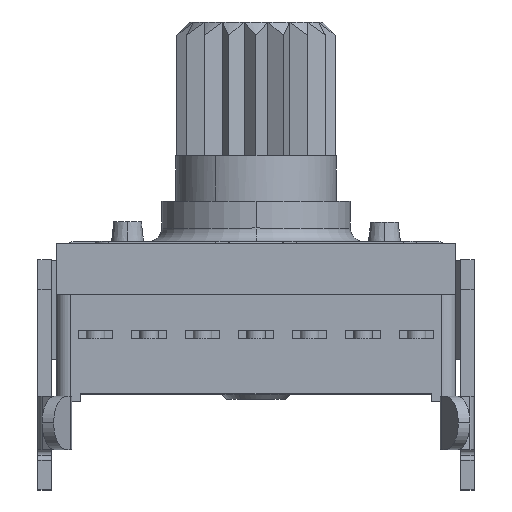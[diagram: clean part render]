
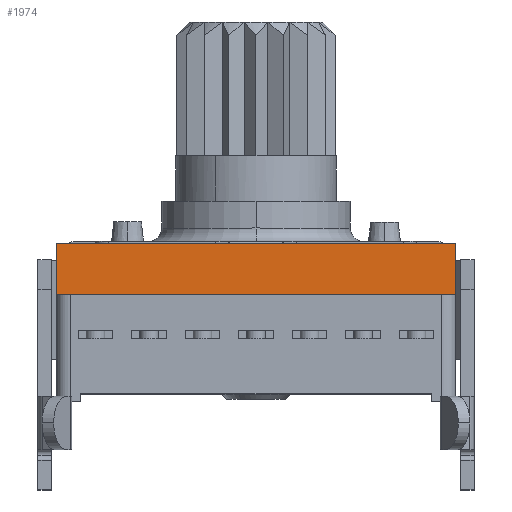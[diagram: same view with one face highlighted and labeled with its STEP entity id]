
A CAD part, top view. The second image highlights one B-rep face of the part: STEP entity #1974.
In plain terms, the highlighted planar face has unit normal (0, 0, 1).
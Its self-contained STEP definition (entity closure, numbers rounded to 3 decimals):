
#484 = VECTOR ( 'NONE', #14357, 1000. ) ;
#968 = CARTESIAN_POINT ( 'NONE',  ( -7.45, 3.7, -1. ) ) ;
#1511 = CARTESIAN_POINT ( 'NONE',  ( 0., 3.7, -1. ) ) ;
#1672 = CARTESIAN_POINT ( 'NONE',  ( 0., 3.7, -1. ) ) ;
#1974 = ADVANCED_FACE ( 'NONE', ( #10829 ), #16236, .T. ) ;
#2010 = LINE ( 'NONE', #3387, #13949 ) ;
#2968 = ORIENTED_EDGE ( 'NONE', *, *, #9677, .F. ) ;
#2997 = VECTOR ( 'NONE', #4338, 1000. ) ;
#3016 = EDGE_LOOP ( 'NONE', ( #4217, #3815, #2968, #10319 ) ) ;
#3084 = CARTESIAN_POINT ( 'NONE',  ( 7.45, 5.6, -1. ) ) ;
#3344 = LINE ( 'NONE', #8977, #484 ) ;
#3387 = CARTESIAN_POINT ( 'NONE',  ( -7.45, 3.7, -1. ) ) ;
#3536 = VERTEX_POINT ( 'NONE', #14180 ) ;
#3815 = ORIENTED_EDGE ( 'NONE', *, *, #10234, .F. ) ;
#4217 = ORIENTED_EDGE ( 'NONE', *, *, #9743, .T. ) ;
#4338 = DIRECTION ( 'NONE',  ( 0., 1., 0. ) ) ;
#4367 = DIRECTION ( 'NONE',  ( 1., 0., 0. ) ) ;
#4695 = DIRECTION ( 'NONE',  ( 0., 1., 0. ) ) ;
#6669 = EDGE_CURVE ( 'NONE', #12030, #3536, #13810, .T. ) ;
#7072 = VECTOR ( 'NONE', #4367, 1000. ) ;
#8437 = AXIS2_PLACEMENT_3D ( 'NONE', #1511, #9597, #12256 ) ;
#8573 = VERTEX_POINT ( 'NONE', #3084 ) ;
#8977 = CARTESIAN_POINT ( 'NONE',  ( 7.45, 5.6, -1. ) ) ;
#9597 = DIRECTION ( 'NONE',  ( 0., 0., 1. ) ) ;
#9677 = EDGE_CURVE ( 'NONE', #12030, #10327, #2010, .T. ) ;
#9743 = EDGE_CURVE ( 'NONE', #3536, #8573, #10959, .T. ) ;
#10234 = EDGE_CURVE ( 'NONE', #10327, #8573, #3344, .T. ) ;
#10319 = ORIENTED_EDGE ( 'NONE', *, *, #6669, .T. ) ;
#10327 = VERTEX_POINT ( 'NONE', #13123 ) ;
#10829 = FACE_OUTER_BOUND ( 'NONE', #3016, .T. ) ;
#10959 = LINE ( 'NONE', #16461, #2997 ) ;
#12030 = VERTEX_POINT ( 'NONE', #968 ) ;
#12256 = DIRECTION ( 'NONE',  ( 1., 0., 0. ) ) ;
#13123 = CARTESIAN_POINT ( 'NONE',  ( -7.45, 5.6, -1. ) ) ;
#13810 = LINE ( 'NONE', #1672, #7072 ) ;
#13949 = VECTOR ( 'NONE', #4695, 1000. ) ;
#14180 = CARTESIAN_POINT ( 'NONE',  ( 7.45, 3.7, -1. ) ) ;
#14357 = DIRECTION ( 'NONE',  ( 1., 0., 0. ) ) ;
#16236 = PLANE ( 'NONE',  #8437 ) ;
#16461 = CARTESIAN_POINT ( 'NONE',  ( 7.45, 3.7, -1. ) ) ;
